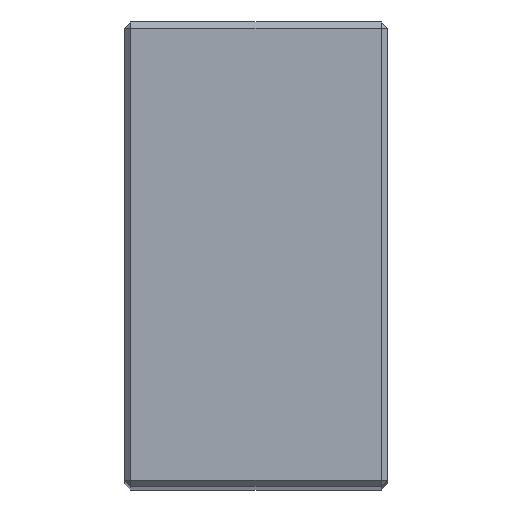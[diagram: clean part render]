
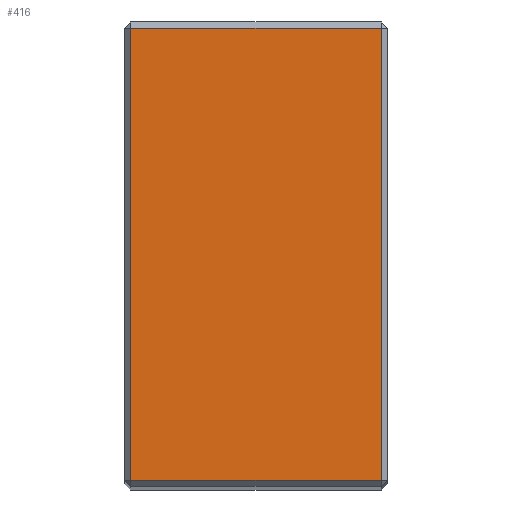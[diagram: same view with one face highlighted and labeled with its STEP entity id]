
A CAD part, top view. The second image highlights one B-rep face of the part: STEP entity #416.
In plain terms, the highlighted planar face has unit normal (0, 0, 1).
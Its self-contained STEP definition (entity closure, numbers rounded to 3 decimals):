
#20 = VECTOR ( 'NONE', #179, 1000. ) ;
#26 = CARTESIAN_POINT ( 'NONE',  ( -20.5, 1., 173. ) ) ;
#45 = VERTEX_POINT ( 'NONE', #264 ) ;
#102 = AXIS2_PLACEMENT_3D ( 'NONE', #533, #474, #256 ) ;
#130 = VERTEX_POINT ( 'NONE', #26 ) ;
#139 = EDGE_LOOP ( 'NONE', ( #616, #404, #518, #588 ) ) ;
#168 = CARTESIAN_POINT ( 'NONE',  ( 20.5, 1., 173. ) ) ;
#175 = CARTESIAN_POINT ( 'NONE',  ( 20.5, 75., 173. ) ) ;
#179 = DIRECTION ( 'NONE',  ( 1., 0., 0. ) ) ;
#181 = LINE ( 'NONE', #593, #477 ) ;
#196 = PLANE ( 'NONE',  #102 ) ;
#223 = VECTOR ( 'NONE', #628, 1000. ) ;
#239 = LINE ( 'NONE', #298, #223 ) ;
#256 = DIRECTION ( 'NONE',  ( -1., 0., 0. ) ) ;
#262 = VECTOR ( 'NONE', #590, 1000. ) ;
#264 = CARTESIAN_POINT ( 'NONE',  ( -20.5, 75., 173. ) ) ;
#289 = EDGE_CURVE ( 'NONE', #45, #130, #396, .T. ) ;
#298 = CARTESIAN_POINT ( 'NONE',  ( -21.5, 75., 173. ) ) ;
#345 = LINE ( 'NONE', #549, #20 ) ;
#382 = VERTEX_POINT ( 'NONE', #175 ) ;
#393 = DIRECTION ( 'NONE',  ( 0., 1., 0. ) ) ;
#396 = LINE ( 'NONE', #583, #262 ) ;
#404 = ORIENTED_EDGE ( 'NONE', *, *, #289, .T. ) ;
#416 = ADVANCED_FACE ( 'NONE', ( #613 ), #196, .F. ) ;
#474 = DIRECTION ( 'NONE',  ( 0., 0., -1. ) ) ;
#477 = VECTOR ( 'NONE', #393, 1000. ) ;
#489 = EDGE_CURVE ( 'NONE', #130, #622, #345, .T. ) ;
#516 = EDGE_CURVE ( 'NONE', #382, #45, #239, .T. ) ;
#518 = ORIENTED_EDGE ( 'NONE', *, *, #489, .T. ) ;
#533 = CARTESIAN_POINT ( 'NONE',  ( 21.5, 76., 173. ) ) ;
#549 = CARTESIAN_POINT ( 'NONE',  ( 21.5, 1., 173. ) ) ;
#563 = EDGE_CURVE ( 'NONE', #622, #382, #181, .T. ) ;
#583 = CARTESIAN_POINT ( 'NONE',  ( -20.5, 76., 173. ) ) ;
#588 = ORIENTED_EDGE ( 'NONE', *, *, #563, .T. ) ;
#590 = DIRECTION ( 'NONE',  ( 0., -1., 0. ) ) ;
#593 = CARTESIAN_POINT ( 'NONE',  ( 20.5, 76., 173. ) ) ;
#613 = FACE_OUTER_BOUND ( 'NONE', #139, .T. ) ;
#616 = ORIENTED_EDGE ( 'NONE', *, *, #516, .T. ) ;
#622 = VERTEX_POINT ( 'NONE', #168 ) ;
#628 = DIRECTION ( 'NONE',  ( -1., 0., 0. ) ) ;
